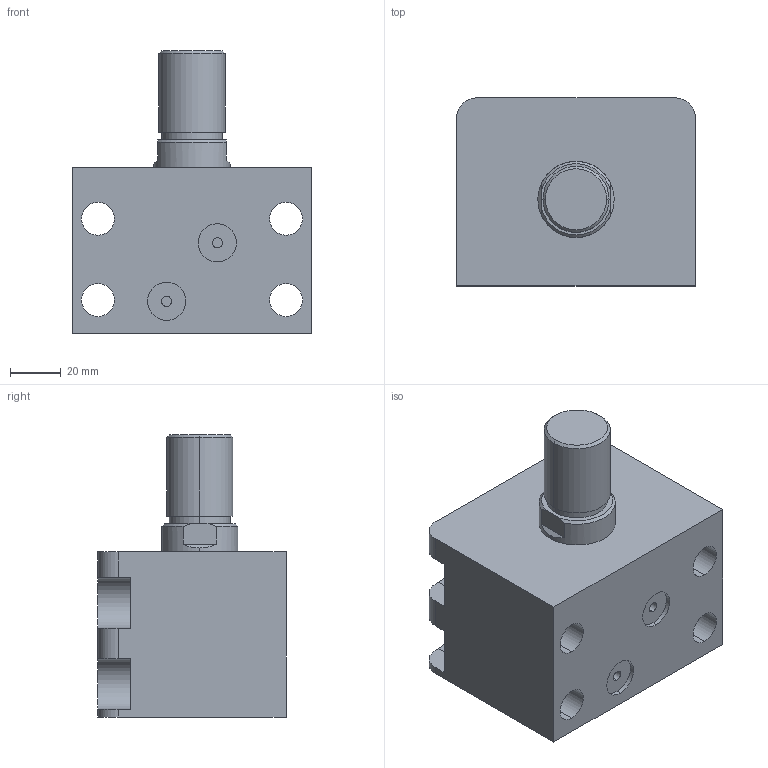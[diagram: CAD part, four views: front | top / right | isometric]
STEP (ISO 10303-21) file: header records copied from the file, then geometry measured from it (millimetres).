
FILE_DESCRIPTION (( 'STEP AP203' ), '1' );
FILE_NAME ('HTB-LAM50-5W.STEP', '2023-03-20T00:41:21', ( '微软用户' ), ( '微软中国' ), 'SwSTEP 2.0', 'SolidWorks 2012', '' );
FILE_SCHEMA (( 'CONFIG_CONTROL_DESIGN' ));
Length unit declared in the file: millimetre
Products named in the file (3): HTB-LAM50-5掛极; HTB-LAM50-5W; HTB-LAM50-5W活塞杆
Assembly tree (2 placements, depth 2):
  HTB-LAM50-5W
    HTB-LAM50-5掛极
    HTB-LAM50-5W活塞杆
Bounding box: 94 x 74 x 111 mm (x, y, z)
Volume: 418929 mm3; surface area: 69890.4 mm2
Topology: 2 solids, 2 shells, 79 faces, 192 edges, 126 vertices
Faces by surface type: cylinder 38, plane 33, cone 4, torus 4
Entity records: 2675 total; most frequent: DIRECTION 440, CARTESIAN_POINT 430, ORIENTED_EDGE 384, EDGE_CURVE 192, AXIS2_PLACEMENT_3D 172, VERTEX_POINT 126, EDGE_LOOP 96, VECTOR 96
